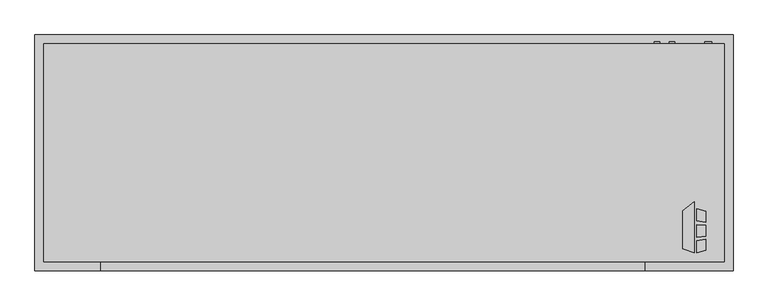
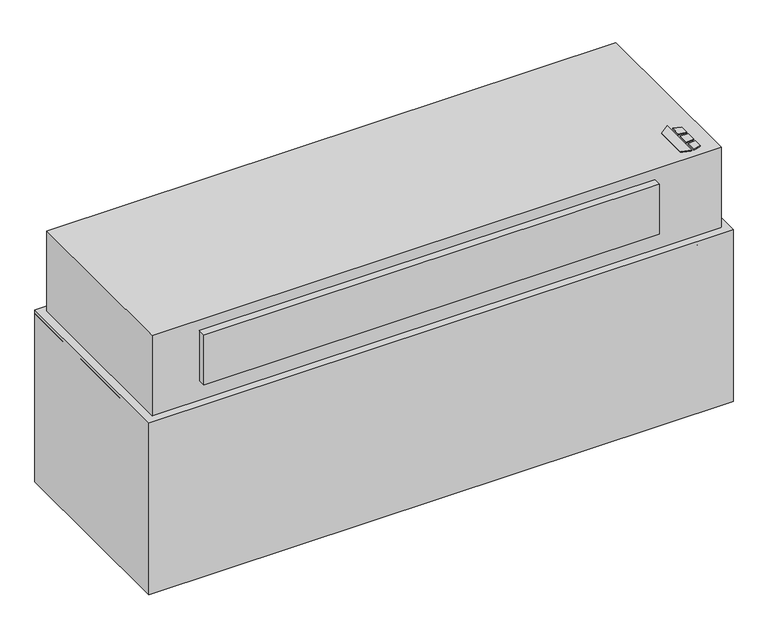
"""IFC4 building model written with IfcOpenShell, lengths in millimetres: proxy geometry, Horizontal_Telescoping_Fan_Coil_Unit_-_CBY_-_IEC_-_2-Pipe_Cool-EHeat_RH_2022 : Size 12 - 277v/60Hz/1Ph - 4 Row 10.0kW."""

import ifcopenshell
import ifcopenshell.guid

model = None  # the IFC model being written
_history = None  # IfcOwnerHistory: only IFC2X3 demands one
_inside = {}  # id of a spatial element -> (the spatial element, [elements in it])
_under = {}  # id of a project, library or spatial element -> (it, [spatial elements below it])
_declared = {}  # id of a project -> (the project, [libraries it declares])
_typed = {}  # id of a type object -> (the type object, [elements of that type])
_made_of = {}  # id of a material, layer set ... -> (it, [elements and type objects made of it])


def new_model(schema):
    """Start an empty IFC model of exactly this schema.

    Asked for "IFC4X3", IfcOpenShell would pick the latest addendum, in which some entities
    have other attributes; the version numbers below select the first issue.
    IFC2X3 requires an IfcOwnerHistory on every rooted entity: one is made here for all.
    """
    global model, _history
    if schema == "IFC4X3":
        model = ifcopenshell.file(schema_version=(4, 3, 0, 0))
    else:
        model = ifcopenshell.file(schema=schema)
    _inside.clear()
    _under.clear()
    _declared.clear()
    _typed.clear()
    _made_of.clear()
    _history = None
    if model.schema == "IFC2X3":
        org = make("IfcOrganization", Name="unknown")
        user = make(
            "IfcPersonAndOrganization",
            ThePerson=make("IfcPerson", FamilyName="unknown"),
            TheOrganization=org,
        )
        app = make(
            "IfcApplication",
            ApplicationDeveloper=org,
            Version="unknown",
            ApplicationFullName="unknown",
            ApplicationIdentifier="unknown",
        )
        _history = make(
            "IfcOwnerHistory",
            OwningUser=user,
            OwningApplication=app,
            ChangeAction="ADDED",
            CreationDate=0,
        )
    return model


def make(cls, **values):
    """One entity of the class cls with the attributes given. An attribute that is None is left unset."""
    return model.create_entity(
        cls, **{name: value for name, value in values.items() if value is not None}
    )


def rooted(cls, **values):
    """An entity with a GlobalId (a new one), such as an element, a storey or a relation."""
    return make(cls, GlobalId=ifcopenshell.guid.new(), OwnerHistory=_history, **values)


def si_unit(unit_type, name, prefix=None):
    """IfcSIUnit, for example si_unit("LENGTHUNIT", "METRE", prefix="MILLI")."""
    return make("IfcSIUnit", UnitType=unit_type, Prefix=prefix, Name=name)


def assignment(units):
    """IfcUnitAssignment: the units of a project."""
    return None if units is None else make("IfcUnitAssignment", Units=units)


def point(xyz):
    """IfcCartesianPoint."""
    return None if xyz is None else make("IfcCartesianPoint", Coordinates=xyz)


def direction(xyz):
    """IfcDirection."""
    return None if xyz is None else make("IfcDirection", DirectionRatios=xyz)


def frame(location, z_axis=None, x_axis=None):
    """IfcAxis2Placement3D, a coordinate frame: its origin and axes. An axis left out is left unset."""
    return make(
        "IfcAxis2Placement3D",
        Location=point(location),
        Axis=direction(z_axis),
        RefDirection=direction(x_axis),
    )


def frame_2d(location, x_axis=None):
    """IfcAxis2Placement2D, a coordinate frame in the plane: its origin and x axis."""
    return make(
        "IfcAxis2Placement2D", Location=point(location), RefDirection=direction(x_axis)
    )


def origin():
    """The frame at (0, 0, 0) with its axes left unset."""
    return frame((0.0, 0.0, 0.0))


def origin_with_axes():
    """The frame at (0, 0, 0) with the z axis (0, 0, 1) and the x axis (1, 0, 0) written out."""
    return frame((0.0, 0.0, 0.0), z_axis=(0.0, 0.0, 1.0), x_axis=(1.0, 0.0, 0.0))


def place(relative_to, where):
    """IfcLocalPlacement: puts the frame where relative to a parent placement (None: the world)."""
    return make(
        "IfcLocalPlacement", PlacementRelTo=relative_to, RelativePlacement=where
    )


def context(
    kind, dimensions, precision=None, world=None, true_north=None, identifier=None
):
    """IfcGeometricRepresentationContext, for example the 3D "Model" context."""
    return make(
        "IfcGeometricRepresentationContext",
        ContextIdentifier=identifier,
        ContextType=kind,
        CoordinateSpaceDimension=dimensions,
        Precision=precision,
        WorldCoordinateSystem=world,
        TrueNorth=true_north,
    )


def project(units=None, contexts=None):
    """IfcProject with its units and contexts."""
    return rooted(
        "IfcProject",
        Name="project",
        RepresentationContexts=contexts,
        UnitsInContext=assignment(units),
    )


def spatial(cls, under=None, at=None, **own):
    """A site, building, storey or space (cls), placed at a placement, below another one or the project."""
    s = rooted(cls, ObjectPlacement=at, **own)
    if under is not None:
        _under.setdefault(under.id(), (under, []))[1].append(s)
    return s


def polyline(points):
    """IfcPolyline through the points."""
    return make("IfcPolyline", Points=[point(p) for p in points])


def circle_curve(where, radius):
    """IfcCircle in the frame where."""
    return make("IfcCircle", Position=where, Radius=radius)


def trimmed(basis, trim1, trim2, sense, master):
    """IfcTrimmedCurve: the piece of a basis curve between two trims."""
    return make(
        "IfcTrimmedCurve",
        BasisCurve=basis,
        Trim1=trim1,
        Trim2=trim2,
        SenseAgreement=sense,
        MasterRepresentation=master,
    )


def segment(curve, same_sense, transition):
    """IfcCompositeCurveSegment."""
    return make(
        "IfcCompositeCurveSegment",
        Transition=transition,
        SameSense=same_sense,
        ParentCurve=curve,
    )


def composite_curve(segments, self_intersect=None):
    """IfcCompositeCurve: segments joined end to end."""
    return make("IfcCompositeCurve", Segments=segments, SelfIntersect=self_intersect)


def outline(outer, holes=None, kind="AREA"):
    """IfcArbitraryClosedProfileDef: a profile drawn as a closed curve; with holes, ...WithVoids."""
    if holes is None:
        return make("IfcArbitraryClosedProfileDef", ProfileType=kind, OuterCurve=outer)
    return make(
        "IfcArbitraryProfileDefWithVoids",
        ProfileType=kind,
        OuterCurve=outer,
        InnerCurves=holes,
    )


def extrude(swept, where, along, depth):
    """IfcExtrudedAreaSolid: the profile swept, set in the frame where, extruded along a direction by depth."""
    return make(
        "IfcExtrudedAreaSolid",
        SweptArea=swept,
        Position=where,
        ExtrudedDirection=direction(along),
        Depth=depth,
    )


def shape(context_of_items, identifier, shape_type, items):
    """IfcShapeRepresentation: the items that make up one representation, for example the "Body"."""
    return make(
        "IfcShapeRepresentation",
        ContextOfItems=context_of_items,
        RepresentationIdentifier=identifier,
        RepresentationType=shape_type,
        Items=items,
    )


def source(mapping_origin, context_of_items, identifier, shape_type, items):
    """IfcRepresentationMap: a shape defined once, which mapped items show again and again."""
    return make(
        "IfcRepresentationMap",
        MappingOrigin=mapping_origin,
        MappedRepresentation=shape(context_of_items, identifier, shape_type, items),
    )


def transform(
    local_origin,
    x_axis=None,
    y_axis=None,
    z_axis=None,
    scale=None,
    scale2=None,
    scale3=None,
    uniform=True,
):
    """IfcCartesianTransformationOperator3D, or its non-uniform kind. x_axis, y_axis, z_axis: its Axis1, 2, 3."""
    if uniform:
        return make(
            "IfcCartesianTransformationOperator3D",
            Axis1=direction(x_axis),
            Axis2=direction(y_axis),
            LocalOrigin=point(local_origin),
            Scale=scale,
            Axis3=direction(z_axis),
        )
    return make(
        "IfcCartesianTransformationOperator3DnonUniform",
        Axis1=direction(x_axis),
        Axis2=direction(y_axis),
        LocalOrigin=point(local_origin),
        Scale=scale,
        Axis3=direction(z_axis),
        Scale2=scale2,
        Scale3=scale3,
    )


def mapped(mapping_source, mapping_target):
    """IfcMappedItem: shows the shape of a source again, moved by a transform."""
    return make(
        "IfcMappedItem", MappingSource=mapping_source, MappingTarget=mapping_target
    )


def made_of(thing, what):
    """Note that an element or type object is made of a material, layer set ...; save() writes the relation."""
    if what is not None:
        _made_of.setdefault(what.id(), (what, []))[1].append(thing)
    return thing


def element(
    cls,
    number,
    at=None,
    inside=None,
    cuts=None,
    type_object=None,
    material=None,
    context=None,
    identifier="Body",
    shape_type=None,
    held_by="IfcProductDefinitionShape",
    body=None,
    shapes=None,
    **own,
):
    """One element of the class cls, such as IfcWall. Its Tag is "e" and its number.

    at: its placement. inside: the storey or other place that contains it. cuts: it is an
    opening in that element (IfcRelVoidsElement). A single representation is given by context,
    identifier, shape_type and body (its items); several are given by shapes. held_by: the class
    of the entity that holds the representations. save() writes the other relations.
    """
    e = rooted(cls, Tag="e%d" % number, ObjectPlacement=at, **own)
    if body is not None:
        shapes = [shape(context, identifier, shape_type, body)]
    if shapes is not None:
        e.Representation = make(held_by, Representations=shapes)
    if inside is not None:
        _inside.setdefault(inside.id(), (inside, []))[1].append(e)
    if cuts is not None:
        rooted(
            "IfcRelVoidsElement", RelatingBuildingElement=cuts, RelatedOpeningElement=e
        )
    if type_object is not None:
        _typed.setdefault(type_object.id(), (type_object, []))[1].append(e)
    return made_of(e, material)


def aggregate(whole, parts):
    """IfcRelAggregates: a whole, such as a stair, and the parts it consists of."""
    return rooted("IfcRelAggregates", RelatingObject=whole, RelatedObjects=parts)


def save(model, path):
    """Write the relations noted so far, then the file.

    IfcRelAggregates (storeys below a building ...), IfcRelContainedInSpatialStructure (elements
    in a storey), IfcRelDefinesByType, IfcRelAssociatesMaterial and IfcRelDeclares: one each for
    every whole, place, type object, material and project.
    """
    for whole, parts in _under.values():
        aggregate(whole, parts)
    for where, things in _inside.values():
        rooted(
            "IfcRelContainedInSpatialStructure",
            RelatedElements=things,
            RelatingStructure=where,
        )
    for kind, things in _typed.values():
        rooted("IfcRelDefinesByType", RelatedObjects=things, RelatingType=kind)
    for what, things in _made_of.values():
        rooted("IfcRelAssociatesMaterial", RelatedObjects=things, RelatingMaterial=what)
    for by, libraries in _declared.values():
        rooted("IfcRelDeclares", RelatingContext=by, RelatedDefinitions=libraries)
    model.write(path)


def mechanical_equipment_9d87b53e(model_context):
    return source(origin(), model_context, "Body", "SweptSolid", [
        extrude(outline(polyline([(988.7019761, -401.0078476), (1021.2602728, -375.5705184), (1021.2602728, -517.525), (988.7019761, -507.3054201), (988.7019761, -401.0078476)])), origin_with_axes(), (0.0, 0.0, 1.0), 3.175),
        extrude(outline(polyline([(1028.0186058, -428.879852), (1028.0186058, -394.3999379), (1054.1, -402.5865115), (1054.1, -432.0822446), (1028.0186058, -428.879852)])), origin_with_axes(), (0.0, 0.0, 1.0), 3.175),
        extrude(outline(polyline([(1054.1, -510.5365115), (1028.0186058, -517.525), (1028.0186058, -484.3036996), (1054.1, -480.7618564), (1054.1, -510.5365115)])), origin_with_axes(), (0.0, 0.0, 1.0), 3.175),
        extrude(outline(polyline([(1054.1, -441.1638277), (1054.1, -472.413983), (1028.0186058, -475.155248), (1028.0186058, -439.2975378), (1054.1, -441.1638277)])), origin_with_axes(), (0.0, 0.0, 1.0), 3.175),
        extrude(outline(composite_curve([segment(trimmed(circle_curve(frame_2d((-95.25, 958.85)), 7.9375), [point((-95.25, 966.7875))], [point((-95.25, 950.9125))], False, "CARTESIAN"), True, "CONTINUOUS"), segment(trimmed(circle_curve(frame_2d((-95.25, 958.85)), 7.9375), [point((-95.25, 950.9125))], [point((-95.25, 966.7875))], False, "CARTESIAN"), True, "CONTINUOUS")], self_intersect=False)), frame((0.0, 66.675, 0.0), z_axis=(0.0, 1.0, 0.0), x_axis=(0.0, 0.0, 1.0)), (0.0, 0.0, 1.0), 6.35),
        extrude(outline(composite_curve([segment(trimmed(circle_curve(frame_2d((-60.325, 917.575)), 7.9375), [point((-60.325, 925.5125))], [point((-60.325, 909.6375))], False, "CARTESIAN"), True, "CONTINUOUS"), segment(trimmed(circle_curve(frame_2d((-60.325, 917.575)), 7.9375), [point((-60.325, 909.6375))], [point((-60.325, 925.5125))], False, "CARTESIAN"), True, "CONTINUOUS")], self_intersect=False)), frame((0.0, 66.675, 0.0), z_axis=(0.0, 1.0, 0.0), x_axis=(0.0, 0.0, 1.0)), (0.0, 0.0, 1.0), 6.35),
        extrude(outline(composite_curve([segment(trimmed(circle_curve(frame_2d((-260.35, 1060.45)), 9.525), [point((-260.35, 1069.975))], [point((-260.35, 1050.925))], False, "CARTESIAN"), True, "CONTINUOUS"), segment(trimmed(circle_curve(frame_2d((-260.35, 1060.45)), 9.525), [point((-260.35, 1050.925))], [point((-260.35, 1069.975))], False, "CARTESIAN"), True, "CONTINUOUS")], self_intersect=False)), frame((0.0, 66.675, 0.0), z_axis=(0.0, 1.0, 0.0), x_axis=(0.0, 0.0, 1.0)), (0.0, 0.0, 1.0), 6.35),
        extrude(outline(polyline([(1130.3, 92.075), (1130.3, -568.325), (-825.5, -568.325), (-825.5, 92.075), (1130.3, 92.075)])), frame((0.0, 0.0, -895.35), z_axis=(0.0, 0.0, 1.0), x_axis=(1.0, 0.0, 0.0)), (0.0, 0.0, 1.0), 609.6),
        extrude(outline(polyline([(1130.3, 92.075), (1130.3, -568.325), (-825.5, -568.325), (-825.5, 92.075), (1130.3, 92.075)])), frame((0.0, 0.0, -311.15), z_axis=(0.0, 0.0, 1.0), x_axis=(1.0, 0.0, 0.0)), (0.0, 0.0, 1.0), 12.7),
        extrude(outline(polyline([(1130.3, 92.075), (1130.3, -568.325), (-825.5, -568.325), (-825.5, 92.075), (1130.3, 92.075)])), frame((0.0, 0.0, -292.1), z_axis=(0.0, 0.0, 1.0), x_axis=(1.0, 0.0, 0.0)), (0.0, 0.0, 1.0), 6.35),
        extrude(outline(polyline([(1104.9, 66.675), (1104.9, -542.925), (-800.1, -542.925), (-800.1, 66.675), (1104.9, 66.675)])), frame((0.0, 0.0, -298.45), z_axis=(0.0, 0.0, 1.0), x_axis=(1.0, 0.0, 0.0)), (0.0, 0.0, 1.0), 6.35),
        extrude(outline(polyline([(882.65, -568.325), (-641.35, -568.325), (-641.35, -542.925), (882.65, -542.925), (882.65, -568.325)])), frame((0.0, 0.0, -215.9), z_axis=(0.0, 0.0, 1.0), x_axis=(1.0, 0.0, 0.0)), (0.0, 0.0, 1.0), 177.8),
        extrude(outline(polyline([(-800.1, 66.675), (1104.9, 66.675), (1104.9, -542.925), (-800.1, -542.925), (-800.1, 66.675)])), frame((0.0, 0.0, -285.75), z_axis=(0.0, 0.0, 1.0), x_axis=(1.0, 0.0, 0.0)), (0.0, 0.0, 1.0), 285.75),
        extrude(outline(polyline([(939.8, -9.525), (939.8, -263.525), (-635.0, -263.525), (-635.0, -9.525), (939.8, -9.525)])), frame((0.0, 0.0, -317.5), z_axis=(0.0, 0.0, 1.0), x_axis=(1.0, 0.0, 0.0)), (0.0, 0.0, 1.0), 6.35),
    ])


if __name__ == "__main__":
    model = new_model("IFC4")
    model_context = context("Model", 3, world=origin())
    ifc_project = project(units=[si_unit("LENGTHUNIT", "METRE", prefix="MILLI")], contexts=[model_context])
    site = spatial("IfcSite", under=ifc_project)
    building = spatial("IfcBuilding", under=site)
    placement = place(None, origin())
    mechanical_equipment_shape = mechanical_equipment_9d87b53e(model_context)
    element("IfcBuildingElementProxy", 1, Name="Horizontal_Telescoping_Fan_Coil_Unit_-_CBY_-_IEC_-_2-Pipe_Cool-EHeat_RH_2022 : Size 12 - 277v/60Hz/1Ph - 4 Row 10.0kW", ObjectType="Horizontal_Telescoping_Fan_Coil_Unit_-_CBY_-_IEC_-_2-Pipe_Cool-EHeat_RH_2022 : Size 12 - 277v/60Hz/1Ph - 4 Row 10.0kW", at=placement, inside=building, context=model_context, shape_type="MappedRepresentation", body=[
        mapped(mechanical_equipment_shape, transform((0.0, 0.0, 0.0), x_axis=(1.0, 0.0, 0.0), y_axis=(0.0, 1.0, 0.0), z_axis=(0.0, 0.0, 1.0))),
    ])
    save(model, "model.ifc")
